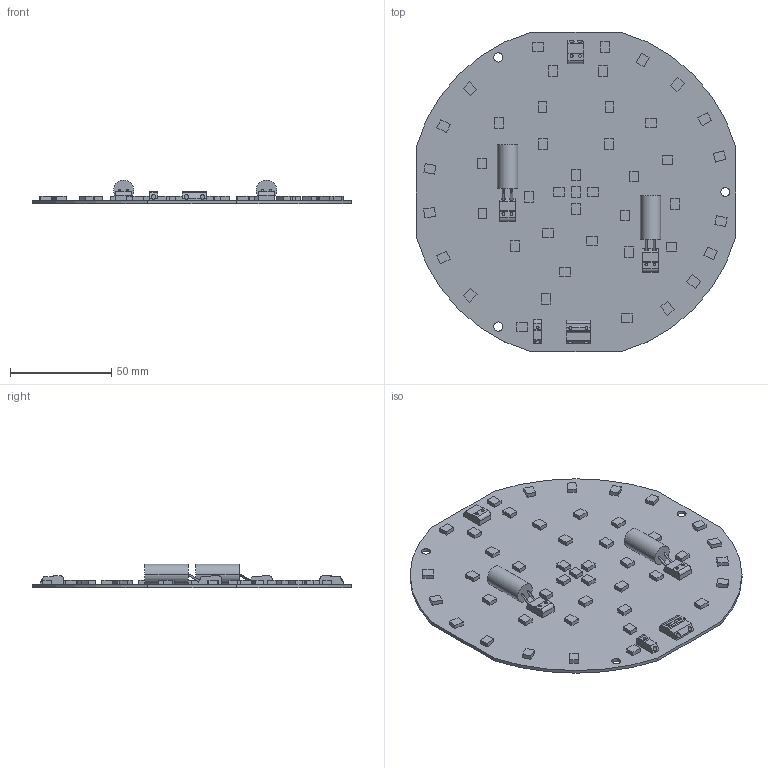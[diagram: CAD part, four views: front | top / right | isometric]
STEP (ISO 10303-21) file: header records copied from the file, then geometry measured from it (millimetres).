
FILE_DESCRIPTION((''),'2;1');
FILE_NAME('09812822Z','2014-12-03T',('torbenh'),(''),'PRO/ENGINEER BY PARAMETRIC TECHNOLOGY CORPORATION, 2013410','PRO/ENGINEER BY PARAMETRIC TECHNOLOGY CORPORATION, 2013410','');
FILE_SCHEMA(('AUTOMOTIVE_DESIGN { 1 0 10303 214 1 1 1 1 }'));
Length unit declared in the file: millimetre
Products named in the file (1): 09812822Z
Bounding box: 158 x 158 x 11.6 mm (x, y, z)
Volume: 40274.9 mm3; surface area: 46721.8 mm2
Topology: 1 solids, 1 shells, 360 faces, 903 edges, 602 vertices
Faces by surface type: plane 297, cylinder 63
Entity records: 13977 total; most frequent: CARTESIAN_POINT 2177, ORIENTED_EDGE 1806, DIRECTION 1677, PRESENTATION_STYLE_ASSIGNMENT 904, STYLED_ITEM 904, CURVE_STYLE 903, EDGE_CURVE 903, VECTOR 743
